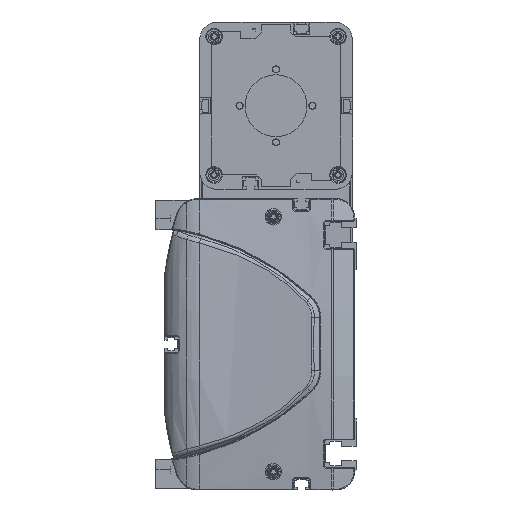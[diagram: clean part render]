
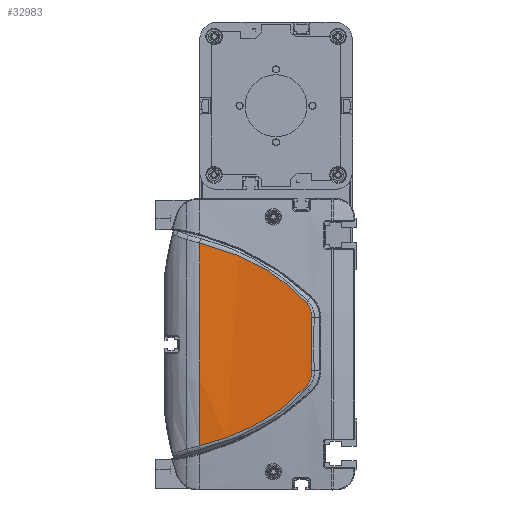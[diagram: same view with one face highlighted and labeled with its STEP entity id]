
A CAD part, left-side view. The second image highlights one B-rep face of the part: STEP entity #32983.
In plain terms, the highlighted cylindrical face has radius 600 mm (diameter 1200 mm), a partial arc.
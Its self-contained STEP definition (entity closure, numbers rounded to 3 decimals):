
#7588=CARTESIAN_POINT('',(-12.406,86.,55.736));
#7589=CARTESIAN_POINT('',(-12.529,80.495,54.41));
#7590=CARTESIAN_POINT('',(-12.828,69.636,51.114));
#7591=CARTESIAN_POINT('',(-13.389,54.079,44.179));
#7592=CARTESIAN_POINT('',(-14.01,39.709,34.979));
#7593=CARTESIAN_POINT('',(-14.395,31.353,27.243));
#7594=CARTESIAN_POINT('',(-14.555,27.451,23.113));
#7596=CARTESIAN_POINT('',(-14.555,27.451,23.113));
#7597=CARTESIAN_POINT('',(-14.641,25.336,20.875));
#7598=CARTESIAN_POINT('',(-14.745,24.202,17.745));
#7599=CARTESIAN_POINT('',(-14.821,24.351,14.67));
#7601=CARTESIAN_POINT('',(-14.821,24.351,14.67));
#7602=CARTESIAN_POINT('',(-14.9,24.51,11.413));
#7603=CARTESIAN_POINT('',(-15.007,24.721,4.895));
#7604=CARTESIAN_POINT('',(-15.007,24.721,
-4.895));
#7605=CARTESIAN_POINT('',(-14.9,24.51,
-11.413));
#7606=CARTESIAN_POINT('',(-14.821,24.351,
-14.67));
#7608=CARTESIAN_POINT('',(-14.821,24.351,
-14.67));
#7609=CARTESIAN_POINT('',(-14.745,24.202,
-17.745));
#7610=CARTESIAN_POINT('',(-14.641,25.337,
-20.876));
#7611=CARTESIAN_POINT('',(-14.555,27.451,
-23.113));
#7613=CARTESIAN_POINT('',(-14.555,27.451,
-23.113));
#7614=CARTESIAN_POINT('',(-14.395,31.353,
-27.243));
#7615=CARTESIAN_POINT('',(-14.01,39.709,
-34.979));
#7616=CARTESIAN_POINT('',(-13.389,54.079,
-44.179));
#7617=CARTESIAN_POINT('',(-12.828,69.636,
-51.114));
#7618=CARTESIAN_POINT('',(-12.529,80.495,
-54.41));
#7619=CARTESIAN_POINT('',(-12.406,86.,
-55.736));
#7621=CARTESIAN_POINT('',(585.,86.,0.));
#7622=DIRECTION('',(0.,1.,0.));
#7623=DIRECTION('',(-0.996,0.,-0.093));
#7624=AXIS2_PLACEMENT_3D('',#7621,#7622,#7623);
#7637=CARTESIAN_POINT('',(-12.406,86.,55.736));
#19910=VERTEX_POINT('',#7637);
#19911=CARTESIAN_POINT('',(-12.406,86.,
-55.736));
#19912=VERTEX_POINT('',#19911);
#19962=VERTEX_POINT('',#7594);
#19963=VERTEX_POINT('',#7599);
#19964=VERTEX_POINT('',#7606);
#19965=VERTEX_POINT('',#7611);
#32965=CARTESIAN_POINT('',(585.,87.45,0.));
#32966=DIRECTION('',(0.,-1.,0.));
#32967=DIRECTION('',(0.,0.,-1.));
#32968=AXIS2_PLACEMENT_3D('',#32965,#32966,#32967);
#32969=CYLINDRICAL_SURFACE('',#32968,600.);
#32971=ORIENTED_EDGE('',*,*,#32970,.T.);
#32973=ORIENTED_EDGE('',*,*,#32972,.T.);
#32974=ORIENTED_EDGE('',*,*,#32955,.T.);
#32976=ORIENTED_EDGE('',*,*,#32975,.T.);
#32978=ORIENTED_EDGE('',*,*,#32977,.T.);
#32980=ORIENTED_EDGE('',*,*,#32979,.T.);
#32981=EDGE_LOOP('',(#32971,#32973,#32974,#32976,#32978,#32980));
#32982=FACE_OUTER_BOUND('',#32981,.F.);
#32983=ADVANCED_FACE('',(#32982),#32969,.T.);
#7595=B_SPLINE_CURVE_WITH_KNOTS('',3,(#7588,#7589,#7590,#7591,#7592,#7593,
#7594),.UNSPECIFIED.,.F.,.F.,(4,1,1,1,4),(0.,0.25,0.5,0.75,1.),
.UNSPECIFIED.);
#7600=B_SPLINE_CURVE_WITH_KNOTS('',3,(#7596,#7597,#7598,#7599),.UNSPECIFIED.,
.F.,.F.,(4,4),(0.,1.),.UNSPECIFIED.);
#7607=B_SPLINE_CURVE_WITH_KNOTS('',3,(#7601,#7602,#7603,#7604,#7605,#7606),
.UNSPECIFIED.,.F.,.F.,(4,1,1,4),(0.,0.333,0.667,1.),
.UNSPECIFIED.);
#7612=B_SPLINE_CURVE_WITH_KNOTS('',3,(#7608,#7609,#7610,#7611),.UNSPECIFIED.,
.F.,.F.,(4,4),(0.,1.),.UNSPECIFIED.);
#7620=B_SPLINE_CURVE_WITH_KNOTS('',3,(#7613,#7614,#7615,#7616,#7617,#7618,
#7619),.UNSPECIFIED.,.F.,.F.,(4,1,1,1,4),(0.,0.25,0.5,0.75,1.),
.UNSPECIFIED.);
#7625=CIRCLE('',#7624,600.);
#32955=EDGE_CURVE('',#19963,#19964,#7607,.T.);
#32970=EDGE_CURVE('',#19910,#19962,#7595,.T.);
#32972=EDGE_CURVE('',#19962,#19963,#7600,.T.);
#32975=EDGE_CURVE('',#19964,#19965,#7612,.T.);
#32977=EDGE_CURVE('',#19965,#19912,#7620,.T.);
#32979=EDGE_CURVE('',#19912,#19910,#7625,.T.);
